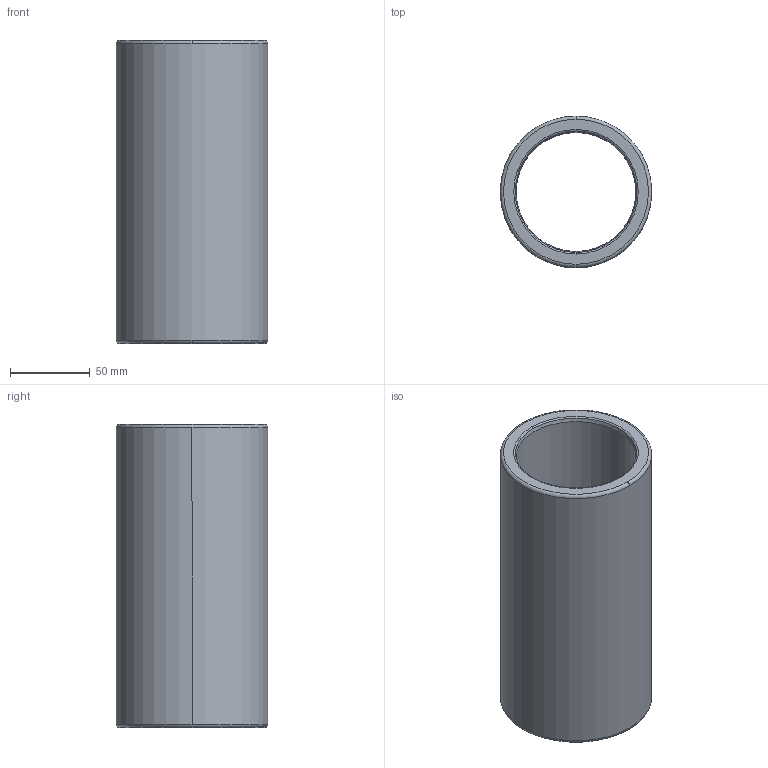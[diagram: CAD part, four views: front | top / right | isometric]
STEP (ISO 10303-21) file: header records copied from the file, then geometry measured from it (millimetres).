
FILE_DESCRIPTION((''),'2;1');
FILE_NAME('B30_063_190.stp','2009-01-12T10:41:44',(''),(''),'Mechanical Desktop 2009','Mechanical Desktop 2009',', , ');
FILE_SCHEMA(('CONFIG_CONTROL_DESIGN'));
Length unit declared in the file: millimetre
Products named in the file (2): Product; blmdl1
Assembly tree (1 placements, depth 2):
  Product
    blmdl1
Bounding box: 94.98 x 94.98 x 190 mm (x, y, z)
Volume: 506624.8 mm3; surface area: 105843.9 mm2
Topology: 1 solids, 1 shells, 18 faces, 48 edges, 32 vertices
Faces by surface type: torus 8, cylinder 4, cone 4, plane 2
Entity records: 705 total; most frequent: DIRECTION 128, CARTESIAN_POINT 100, ORIENTED_EDGE 96, AXIS2_PLACEMENT_3D 60, EDGE_CURVE 48, CIRCLE 40, VERTEX_POINT 32, EDGE_LOOP 20
